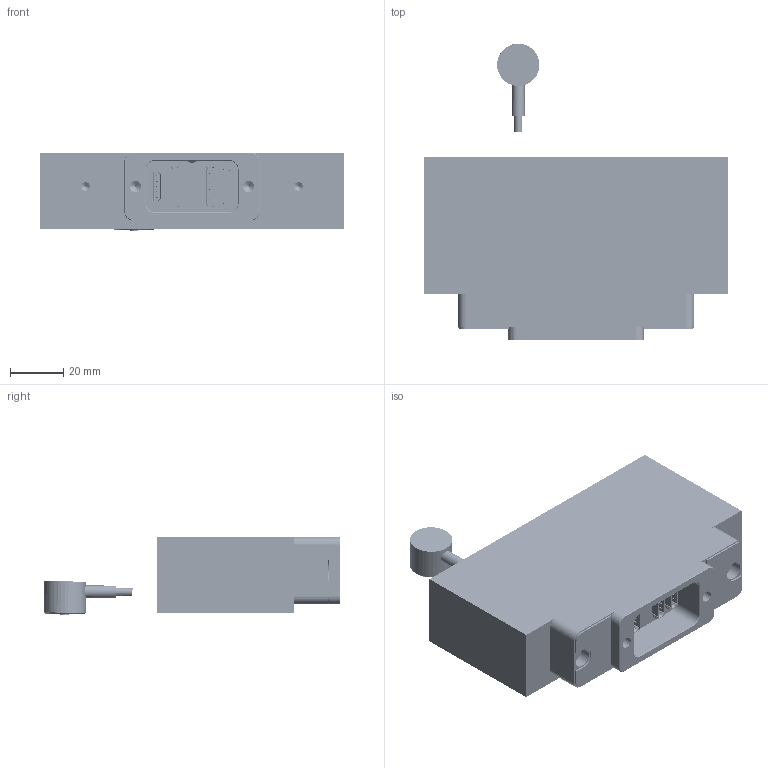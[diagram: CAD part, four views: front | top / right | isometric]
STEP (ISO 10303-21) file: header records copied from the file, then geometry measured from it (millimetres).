
FILE_DESCRIPTION (( 'STEP AP203' ), '1' );
FILE_NAME ('MCSG-B-159-XXXX_Sensor_Connector_SG-8_Install Block.STEP', '2021-04-27T18:30:03', ( '' ), ( '' ), 'SwSTEP 2.0', 'SolidWorks 2019', '' );
FILE_SCHEMA (( 'CONFIG_CONTROL_DESIGN' ));
Length unit declared in the file: inch
Products named in the file (177): Y3198-1.STEP.STEP; Intermediate Board 18B-0.STEP.STEP; M80-0150005_3- 5 Pin.STEP-13.STEP; M80-0150005_3- 5 Pin.STEP-17.STEP; M80-0150005_3- 5 Pin.STEP-1.STEP; 805 Surface Mount Resistor.STEP.STEP; LS-B-159-4000 Sensor Head; M80-0150005- 5 Pin.STEP-8.STEP; M80-0150005- 5 Pin.STEP-3.STEP; Mold Plate Label 18C.STEP.STEP; M80-0150005_4- 5 Pin.STEP-13.STEP; M80-0150005_4- 5 Pin.STEP-4.STEP; M80-0200049.STEP.STEP; MCSG assem & install.STEP.STEP; m80-8400542 5 Pin Female.STEP-12.STEP; M80-0150005_2- 5 Pin.STEP-1.STEP; M80-0150005_1- 5 Pin.STEP-3.STEP; M80-0150005_4- 5 Pin.STEP-5.STEP; M80-0150005_3- 5 Pin.STEP-12.STEP; M80-0150005_1- 5 Pin.STEP-5.STEP; m80-8400542 5 Pin Female.STEP.STEP; Square Sensor Board housing 19-7.STEP.STEP; Square Sensor Board housing 19-2.STEP.STEP; Square Sensor Board housing 19.STEP.STEP; m80-8400542 5 Pin Female.STEP-5.STEP; Partial Overmold Connector 19-2.STEP.STEP; m80-8400542 5 Pin Female.STEP-17.STEP; M80-0150005_1- 5 Pin.STEP-2.STEP; M80-0150005_2- 5 Pin.STEP-4.STEP; M80-0150005_1- 5 Pin.STEP-14.STEP; M80-1042298-5.STEP.STEP; M80-0150005_4- 5 Pin.STEP-3.STEP; M80-0150005_2- 5 Pin.STEP-18.STEP; m80-8520642 6 Pin Male Harwin.STEP-1.STEP; M80-0200049_5.STEP.STEP; MCSG-B-159-XXXX_Sensor_Connector_SG-8_Install Block; M80-0150005_2- 5 Pin.STEP-7.STEP; m80-8400542 5 Pin Female.STEP-9.STEP; Y3198.STEP.STEP; M80-0150005- 5 Pin.STEP-13.STEP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
Assembly tree (441 placements, depth 8):
  MCSG-B-159-XXXX_Sensor_Connector_SG-8_Install Block
    MCSG-B-127-XXXX_Sensor_Connector_SG-8_Install Block.STEP
      MCSG assem & install.STEP.STEP
        Intermediate Board 18C Assembly.STEP.STEP
          Intermediate Board 18B.STEP.STEP
            m80-8400542 5 Pin Female.STEP.STEP
              M80-0150005- 5 Pin.STEP.STEP
                M80-0140006.STEP.STEP
                Y3198.STEP.STEP
              M80-0150005_1- 5 Pin.STEP.STEP
                M80-0140006-1.STEP.STEP
                Y3198-1.STEP.STEP
              M80-0150005_2- 5 Pin.STEP.STEP
                M80-0140006-2.STEP.STEP
                Y3198-2.STEP.STEP
              M80-0150005_3- 5 Pin.STEP.STEP
                M80-0140006-3.STEP.STEP
                Y3198-3.STEP.STEP
              M80-0150005_4- 5 Pin.STEP.STEP
                M80-0140006-4.STEP.STEP
                Y3198-4.STEP.STEP
              M80-1042298-5.STEP.STEP
            m80-8520642 6 Pin Male Harwin.STEP.STEP
              M80-1000698.STEP.STEP
              M80-0200049.STEP.STEP
              M80-0200049_1.STEP.STEP
              M80-0200049_2.STEP.STEP
              M80-0200049_3.STEP.STEP
              M80-0200049_4.STEP.STEP
              M80-0200049_5.STEP.STEP
            m80-8520542 5 Pin Male Harwin.STEP.STEP
              M80-1000598.STEP.STEP
              M80-0200049.STEP.STEP
              M80-0200049_1.STEP.STEP
              M80-0200049_2.STEP.STEP
              M80-0200049_3.STEP.STEP
              M80-0200049_4.STEP.STEP
            m80-8520642 6 Pin Male Harwin.STEP-1.STEP
              M80-1000698.STEP.STEP
              M80-0200049.STEP.STEP
              M80-0200049_1.STEP.STEP
              M80-0200049_2.STEP.STEP
              M80-0200049_3.STEP.STEP
              M80-0200049_4.STEP.STEP
              M80-0200049_5.STEP.STEP
            m80-8520542 5 Pin Male Harwin.STEP-1.STEP
              M80-1000598.STEP.STEP
              M80-0200049.STEP.STEP
              M80-0200049_1.STEP.STEP
              M80-0200049_2.STEP.STEP
              M80-0200049_3.STEP.STEP
              M80-0200049_4.STEP.STEP
            m80-8400542 5 Pin Female.STEP-1.STEP
              M80-0150005- 5 Pin.STEP-1.STEP
                M80-0140006.STEP.STEP
                Y3198.STEP.STEP
              M80-0150005_1- 5 Pin.STEP-1.STEP
                M80-0140006-1.STEP.STEP
                Y3198-1.STEP.STEP
              M80-0150005_2- 5 Pin.STEP-1.STEP
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Bounding box: 114.3 x 111.46 x 29.5 mm (x, y, z)
Volume: 180724.9 mm3; surface area: 89680.7 mm2
Topology: 330 solids, 394 shells, 16145 faces, 38654 edges, 23314 vertices
Faces by surface type: plane 5611, bspline 4646, cylinder 3418, cone 1962, torus 396, sphere 112
Entity records: 101519 total; most frequent: CARTESIAN_POINT 24239, DIRECTION 10775, ORIENTED_EDGE 10482, EDGE_CURVE 5257, AXIS2_PLACEMENT_3D 4159, VERTEX_POINT 3146, EDGE_LOOP 2463, LINE 2457
